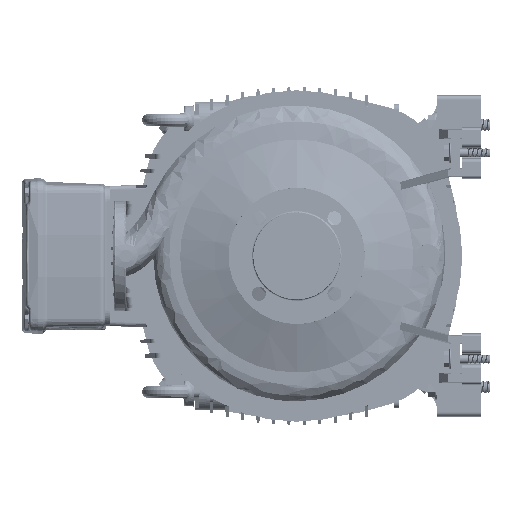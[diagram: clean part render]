
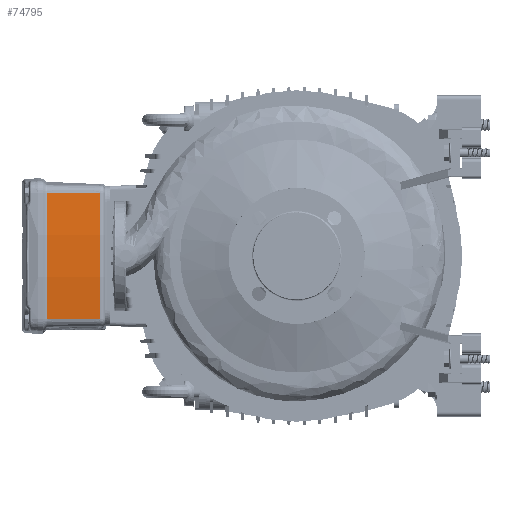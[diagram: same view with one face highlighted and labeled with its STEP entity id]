
A CAD part, left-side view. The second image highlights one B-rep face of the part: STEP entity #74795.
In plain terms, the highlighted conical face has half-angle 1 degrees and reference radius 832 mm.
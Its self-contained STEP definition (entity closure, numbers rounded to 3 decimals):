
#751 = CARTESIAN_POINT ( 'NONE',  ( 0., 266.878, -712. ) ) ;
#12707 = VERTEX_POINT ( 'NONE', #153002 ) ;
#14518 = AXIS2_PLACEMENT_3D ( 'NONE', #751, #153086, #163963 ) ;
#18916 = VERTEX_POINT ( 'NONE', #140636 ) ;
#28592 = DIRECTION ( 'NONE',  ( 0.002, 1., 0.017 ) ) ;
#31903 = VERTEX_POINT ( 'NONE', #107302 ) ;
#42645 = VECTOR ( 'NONE', #28592, 1000. ) ;
#48673 = CIRCLE ( 'NONE', #91428, 831.795 ) ;
#52050 = CONICAL_SURFACE ( 'NONE', #116223, 832., 0.017 ) ;
#55799 = ORIENTED_EDGE ( 'NONE', *, *, #158719, .T. ) ;
#70475 = DIRECTION ( 'NONE',  ( -0.002, 1., 0.017 ) ) ;
#74795 = ADVANCED_FACE ( 'NONE', ( #97459 ), #52050, .T. ) ;
#76765 = ORIENTED_EDGE ( 'NONE', *, *, #136410, .T. ) ;
#78768 = CARTESIAN_POINT ( 'NONE',  ( 85.535, 351., 115.592 ) ) ;
#83841 = LINE ( 'NONE', #159239, #95850 ) ;
#84139 = ORIENTED_EDGE ( 'NONE', *, *, #122577, .T. ) ;
#86514 = DIRECTION ( 'NONE',  ( 0., 1., 0. ) ) ;
#90501 = LINE ( 'NONE', #78768, #42645 ) ;
#91428 = AXIS2_PLACEMENT_3D ( 'NONE', #115897, #130116, #129272 ) ;
#95850 = VECTOR ( 'NONE', #70475, 1000. ) ;
#97459 = FACE_OUTER_BOUND ( 'NONE', #139381, .T. ) ;
#101499 = VERTEX_POINT ( 'NONE', #137935 ) ;
#107302 = CARTESIAN_POINT ( 'NONE',  ( -85.384, 266.878, 114.131 ) ) ;
#115897 = CARTESIAN_POINT ( 'NONE',  ( 0., 339.235, -712. ) ) ;
#116223 = AXIS2_PLACEMENT_3D ( 'NONE', #162724, #86514, #148570 ) ;
#122577 = EDGE_CURVE ( 'NONE', #18916, #101499, #48673, .T. ) ;
#126841 = CIRCLE ( 'NONE', #14518, 830.532 ) ;
#129272 = DIRECTION ( 'NONE',  ( -1., 0., 0. ) ) ;
#130116 = DIRECTION ( 'NONE',  ( 0., -1., 0. ) ) ;
#133853 = EDGE_CURVE ( 'NONE', #31903, #101499, #83841, .T. ) ;
#136410 = EDGE_CURVE ( 'NONE', #12707, #18916, #90501, .T. ) ;
#137935 = CARTESIAN_POINT ( 'NONE',  ( -85.514, 339.235, 115.387 ) ) ;
#139381 = EDGE_LOOP ( 'NONE', ( #76765, #84139, #142186, #55799 ) ) ;
#140636 = CARTESIAN_POINT ( 'NONE',  ( 85.514, 339.235, 115.387 ) ) ;
#142186 = ORIENTED_EDGE ( 'NONE', *, *, #133853, .F. ) ;
#148570 = DIRECTION ( 'NONE',  ( -1., 0., 0. ) ) ;
#153002 = CARTESIAN_POINT ( 'NONE',  ( 85.384, 266.878, 114.131 ) ) ;
#153086 = DIRECTION ( 'NONE',  ( 0., 1., 0. ) ) ;
#158719 = EDGE_CURVE ( 'NONE', #31903, #12707, #126841, .T. ) ;
#159239 = CARTESIAN_POINT ( 'NONE',  ( -85.535, 351., 115.592 ) ) ;
#162724 = CARTESIAN_POINT ( 'NONE',  ( 0., 351., -712. ) ) ;
#163963 = DIRECTION ( 'NONE',  ( -1., 0., 0. ) ) ;
